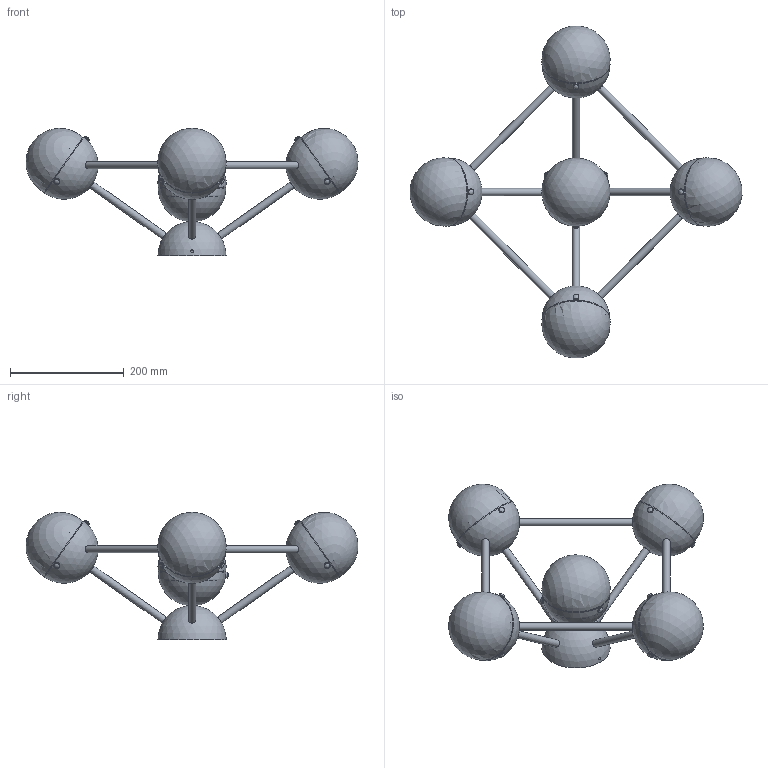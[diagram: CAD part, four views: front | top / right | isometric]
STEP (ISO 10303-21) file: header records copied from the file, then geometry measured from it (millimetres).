
FILE_DESCRIPTION(/* description */ (''),/* implementation_level */ '2;1');
FILE_NAME(/* name */ 'B233 Molecule 5.stp',/* time_stamp */ '2023-02-08T13:32:11+01:00',/* author */ ('Mariusz Awariusz'),/* organization */ (''),/* preprocessor_version */ 'ST-DEVELOPER v19.2',/* originating_system */ 'Autodesk Inventor 2023',/* authorisation */ '');
FILE_SCHEMA (('AUTOMOTIVE_DESIGN { 1 0 10303 214 3 1 1 }'));
Length unit declared in the file: millimetre
Products named in the file (1): B233 Molecule 5_jako część
Bounding box: 583.79 x 583.79 x 224.02 mm (x, y, z)
Volume: 4361610 mm3; surface area: 411329 mm2
Topology: 902 solids, 902 shells, 7351 faces, 16520 edges, 11014 vertices
Faces by surface type: plane 6340, cylinder 938, sphere 29, bspline 24, torus 14, cone 6
Full cylindrical faces by diameter (mm): 4 x18, 4.917 x1, 6.5 x3, 10 x6, 13 x8, 109 x1, 112 x1
Entity records: 202701 total; most frequent: CARTESIAN_POINT 36577, DIRECTION 33040, ORIENTED_EDGE 33016, EDGE_CURVE 16508, LINE 14444, VECTOR 14444, VERTEX_POINT 11014, AXIS2_PLACEMENT_3D 9298
